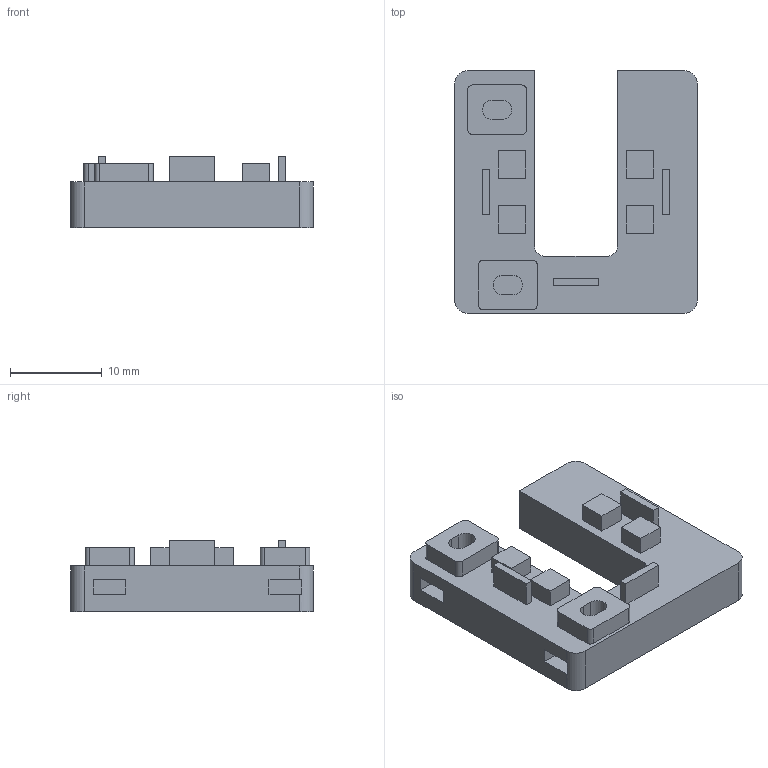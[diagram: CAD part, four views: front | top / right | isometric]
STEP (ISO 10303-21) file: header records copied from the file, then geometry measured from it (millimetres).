
FILE_DESCRIPTION(('Open CASCADE Model'),'2;1');
FILE_NAME('Open CASCADE Shape Model','2026-09-13T21:07:18',('Author'),( 'Open CASCADE'),'Open CASCADE STEP processor 7.9','Open CASCADE 7.9' ,'Unknown');
FILE_SCHEMA(('AUTOMOTIVE_DESIGN { 1 0 10303 214 1 1 1 1 }'));
Length unit declared in the file: millimetre
Products named in the file (1): Open CASCADE STEP translator 7.9 1
Bounding box: 26.5 x 26.5 x 7.8 mm (x, y, z)
Volume: 2687.9 mm3; surface area: 2265.9 mm2
Topology: 1 solids, 1 shells, 97 faces, 249 edges, 166 vertices
Faces by surface type: plane 75, cylinder 22
Entity records: 6200 total; most frequent: CARTESIAN_POINT 1211, DIRECTION 909, LINE 599, VECTOR 599, ORIENTED_EDGE 498, PCURVE 498, DEFINITIONAL_REPRESENTATION 498, EDGE_CURVE 249
